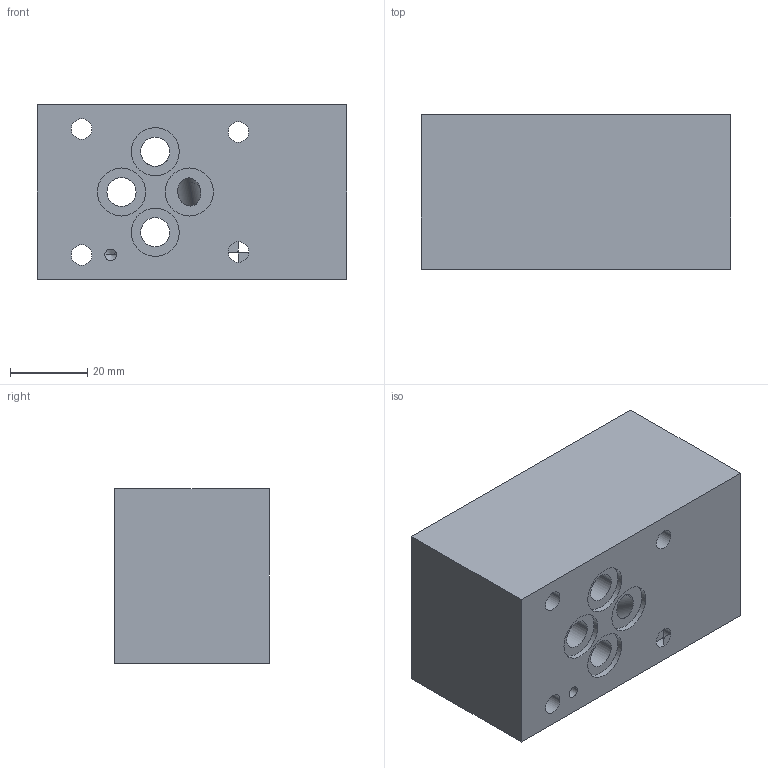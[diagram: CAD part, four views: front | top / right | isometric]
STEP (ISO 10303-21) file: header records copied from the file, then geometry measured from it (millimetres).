
FILE_DESCRIPTION((''),'2;1');
FILE_NAME('20692700','2023-10-12T',('l.soukupova'),(''),'PRO/ENGINEER BY PARAMETRIC TECHNOLOGY CORPORATION, 2015440','PRO/ENGINEER BY PARAMETRIC TECHNOLOGY CORPORATION, 2015440','');
FILE_SCHEMA(('AUTOMOTIVE_DESIGN { 1 0 10303 214 1 1 1 1 }'));
Length unit declared in the file: millimetre
Products named in the file (1): 20692700
Bounding box: 80 x 40 x 45 mm (x, y, z)
Volume: 120506.4 mm3; surface area: 27304.8 mm2
Topology: 1 solids, 4 shells, 100 faces, 402 edges, 367 vertices
Faces by surface type: cylinder 56, cone 30, plane 14
Entity records: 6730 total; most frequent: CARTESIAN_POINT 1607, DIRECTION 717, ORIENTED_EDGE 484, PRESENTATION_STYLE_ASSIGNMENT 479, STYLED_ITEM 439, CURVE_STYLE 436, AXIS2_PLACEMENT_3D 253, EDGE_CURVE 248
